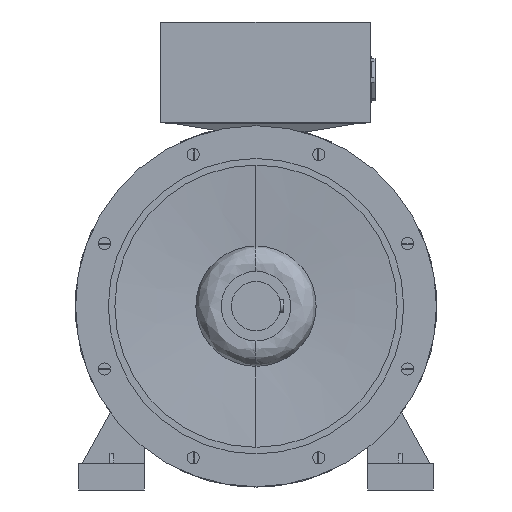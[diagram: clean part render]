
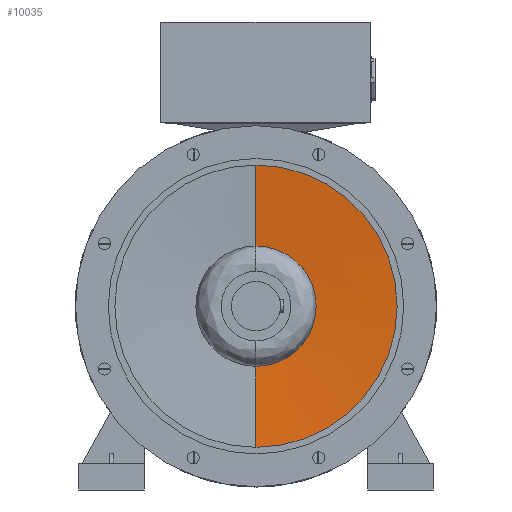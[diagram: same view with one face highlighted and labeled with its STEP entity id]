
A CAD part, left-side view. The second image highlights one B-rep face of the part: STEP entity #10035.
In plain terms, the highlighted conical face has half-angle 85.389 degrees and reference radius 215 mm.
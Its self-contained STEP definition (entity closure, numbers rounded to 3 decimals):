
#2466 = DIRECTION ( 'NONE',  ( -0.08, 0., -0.997 ) ) ;
#2470 = CARTESIAN_POINT ( 'NONE',  ( -70., 0., -215. ) ) ;
#2472 = CARTESIAN_POINT ( 'NONE',  ( -70., 0., 215. ) ) ;
#2473 = CARTESIAN_POINT ( 'NONE',  ( -60., 0., 0. ) ) ;
#2474 = DIRECTION ( 'NONE',  ( -1., 0., 0. ) ) ;
#2475 = DIRECTION ( 'NONE',  ( 0., 0., 1. ) ) ;
#2476 = DIRECTION ( 'NONE',  ( -0.08, 0., 0.997 ) ) ;
#4436 = AXIS2_PLACEMENT_3D ( 'NONE', #2473, #2474, #2475 ) ;
#4600 = AXIS2_PLACEMENT_3D ( 'NONE', #9173, #9174, #9175 ) ;
#6328 = DIRECTION ( 'NONE',  ( -1., 0., 0. ) ) ;
#6330 = DIRECTION ( 'NONE',  ( 0., 0., 1. ) ) ;
#6333 = CARTESIAN_POINT ( 'NONE',  ( -70., 0., 0. ) ) ;
#9173 = CARTESIAN_POINT ( 'NONE',  ( -70., 0., 0. ) ) ;
#9174 = DIRECTION ( 'NONE',  ( -1., 0., 0. ) ) ;
#9175 = DIRECTION ( 'NONE',  ( 0., 0., 1. ) ) ;
#10035 = ADVANCED_FACE ( 'NONE', ( #12475 ), #12482, .F. ) ;
#11707 = EDGE_CURVE ( 'NONE', #29424, #29427, #26356, .T. ) ;
#11708 = EDGE_CURVE ( 'NONE', #29424, #29408, #26371, .T. ) ;
#11709 = EDGE_CURVE ( 'NONE', #29427, #29411, #26369, .T. ) ;
#12475 = FACE_OUTER_BOUND ( 'NONE', #28652, .T. ) ;
#12482 = CONICAL_SURFACE ( 'NONE', #13185, 215., 1.49 ) ;
#13185 = AXIS2_PLACEMENT_3D ( 'NONE', #6333, #6328, #6330 ) ;
#22791 = CARTESIAN_POINT ( 'NONE',  ( -70., 0., -215. ) ) ;
#22794 = CARTESIAN_POINT ( 'NONE',  ( -70., 0., 215. ) ) ;
#22807 = CARTESIAN_POINT ( 'NONE',  ( -60., 0., -91. ) ) ;
#22810 = CARTESIAN_POINT ( 'NONE',  ( -60., 0., 91. ) ) ;
#26356 = CIRCLE ( 'NONE', #4436, 91. ) ;
#26369 = LINE ( 'NONE', #2472, #26375 ) ;
#26371 = LINE ( 'NONE', #2470, #26373 ) ;
#26373 = VECTOR ( 'NONE', #2466, 1000. ) ;
#26375 = VECTOR ( 'NONE', #2476, 1000. ) ;
#27421 = CIRCLE ( 'NONE', #4600, 215. ) ;
#28230 = EDGE_CURVE ( 'NONE', #29408, #29411, #27421, .T. ) ;
#28652 = EDGE_LOOP ( 'NONE', ( #30401, #30409, #28736, #28805 ) ) ;
#28736 = ORIENTED_EDGE ( 'NONE', *, *, #28230, .T. ) ;
#28805 = ORIENTED_EDGE ( 'NONE', *, *, #11709, .F. ) ;
#29408 = VERTEX_POINT ( 'NONE', #22791 ) ;
#29411 = VERTEX_POINT ( 'NONE', #22794 ) ;
#29424 = VERTEX_POINT ( 'NONE', #22807 ) ;
#29427 = VERTEX_POINT ( 'NONE', #22810 ) ;
#30401 = ORIENTED_EDGE ( 'NONE', *, *, #11707, .F. ) ;
#30409 = ORIENTED_EDGE ( 'NONE', *, *, #11708, .T. ) ;
